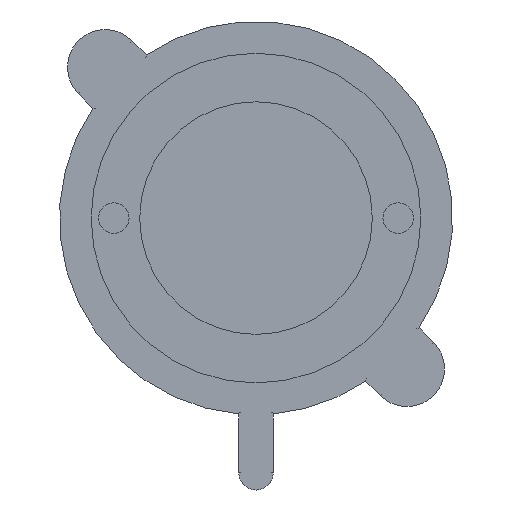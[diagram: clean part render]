
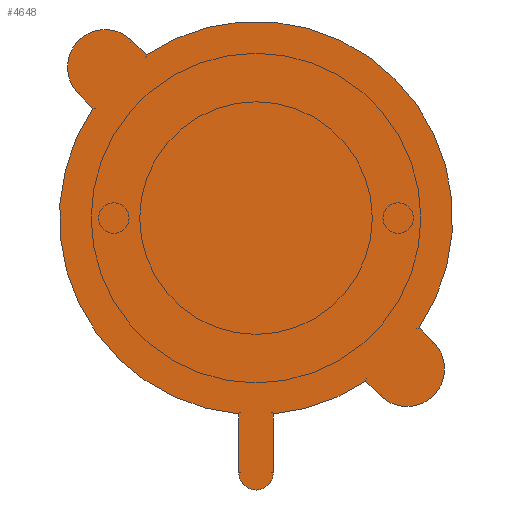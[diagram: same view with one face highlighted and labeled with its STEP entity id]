
A CAD part, top view. The second image highlights one B-rep face of the part: STEP entity #4648.
In plain terms, the highlighted planar face has unit normal (0, 0, 1).
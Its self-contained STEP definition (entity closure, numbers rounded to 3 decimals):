
#1009=LINE('',#20784,#1942);
#1011=LINE('',#20790,#1944);
#1024=LINE('',#20844,#1957);
#1027=LINE('',#20852,#1960);
#1029=LINE('',#20856,#1962);
#1031=LINE('',#20862,#1964);
#1942=VECTOR('',#17082,1.);
#1944=VECTOR('',#17090,1.);
#1957=VECTOR('',#17153,1.);
#1960=VECTOR('',#17162,1.);
#1962=VECTOR('',#17166,1.);
#1964=VECTOR('',#17174,1.);
#3009=FACE_OUTER_BOUND('',#6435,.T.);
#4648=ADVANCED_FACE('',(#3009),#5515,.T.);
#5515=PLANE('',#15697);
#6435=EDGE_LOOP('',(#7681,#7682,#7683,#7684,#7685,#7686,#7687,#7688,#7689,
#7690,#7691,#7692));
#7681=ORIENTED_EDGE('',*,*,#13075,.F.);
#7682=ORIENTED_EDGE('',*,*,#13077,.F.);
#7683=ORIENTED_EDGE('',*,*,#13078,.F.);
#7684=ORIENTED_EDGE('',*,*,#13050,.F.);
#7685=ORIENTED_EDGE('',*,*,#13105,.F.);
#7686=ORIENTED_EDGE('',*,*,#13103,.F.);
#7687=ORIENTED_EDGE('',*,*,#13101,.F.);
#7688=ORIENTED_EDGE('',*,*,#13048,.F.);
#7689=ORIENTED_EDGE('',*,*,#13107,.F.);
#7690=ORIENTED_EDGE('',*,*,#13109,.F.);
#7691=ORIENTED_EDGE('',*,*,#13110,.F.);
#7692=ORIENTED_EDGE('',*,*,#13054,.F.);
#11618=VERTEX_POINT('',#20705);
#11619=VERTEX_POINT('',#20707);
#11620=VERTEX_POINT('',#20714);
#11621=VERTEX_POINT('',#20715);
#11622=VERTEX_POINT('',#20729);
#11623=VERTEX_POINT('',#20731);
#11638=VERTEX_POINT('',#20783);
#11639=VERTEX_POINT('',#20787);
#11656=VERTEX_POINT('',#20845);
#11657=VERTEX_POINT('',#20849);
#11658=VERTEX_POINT('',#20855);
#11659=VERTEX_POINT('',#20859);
#13048=EDGE_CURVE('',#11618,#11619,#15209,.T.);
#13050=EDGE_CURVE('',#11620,#11621,#15210,.T.);
#13054=EDGE_CURVE('',#11622,#11623,#15211,.T.);
#13075=EDGE_CURVE('',#11638,#11622,#1009,.T.);
#13077=EDGE_CURVE('',#11639,#11638,#15224,.T.);
#13078=EDGE_CURVE('',#11621,#11639,#1011,.T.);
#13101=EDGE_CURVE('',#11619,#11656,#1024,.T.);
#13103=EDGE_CURVE('',#11656,#11657,#15235,.T.);
#13105=EDGE_CURVE('',#11657,#11620,#1027,.T.);
#13107=EDGE_CURVE('',#11658,#11618,#1029,.T.);
#13109=EDGE_CURVE('',#11659,#11658,#15236,.T.);
#13110=EDGE_CURVE('',#11623,#11659,#1031,.T.);
#15209=CIRCLE('',#15628,23.5);
#15210=CIRCLE('',#15630,23.5);
#15211=CIRCLE('',#15632,23.5);
#15224=CIRCLE('',#15660,2.05);
#15235=CIRCLE('',#15688,4.5);
#15236=CIRCLE('',#15692,4.5);
#15628=AXIS2_PLACEMENT_3D('',#20706,#17013,#17014);
#15630=AXIS2_PLACEMENT_3D('',#20713,#17017,#17018);
#15632=AXIS2_PLACEMENT_3D('',#20730,#17021,#17022);
#15660=AXIS2_PLACEMENT_3D('',#20788,#17086,#17087);
#15688=AXIS2_PLACEMENT_3D('',#20848,#17157,#17158);
#15692=AXIS2_PLACEMENT_3D('',#20860,#17170,#17171);
#15697=AXIS2_PLACEMENT_3D('',#20866,#17181,#17182);
#17013=DIRECTION('',(0.,0.,-1.));
#17014=DIRECTION('',(1.,0.,0.));
#17017=DIRECTION('',(0.,0.,-1.));
#17018=DIRECTION('',(1.,0.,0.));
#17021=DIRECTION('',(0.,0.,-1.));
#17022=DIRECTION('',(1.,0.,0.));
#17082=DIRECTION('',(0.,1.,0.));
#17086=DIRECTION('',(0.,0.,-1.));
#17087=DIRECTION('',(1.,0.,0.));
#17090=DIRECTION('',(0.,-1.,0.));
#17153=DIRECTION('',(0.707,-0.707,0.));
#17157=DIRECTION('',(0.,0.,-1.));
#17158=DIRECTION('',(1.,0.,0.));
#17162=DIRECTION('',(-0.707,0.707,0.));
#17166=DIRECTION('',(0.707,-0.707,0.));
#17170=DIRECTION('',(0.,0.,-1.));
#17171=DIRECTION('',(1.,0.,0.));
#17174=DIRECTION('',(-0.707,0.707,0.));
#17181=DIRECTION('',(0.,0.,1.));
#17182=DIRECTION('',(1.,0.,0.));
#20705=CARTESIAN_POINT('',(-13.128,18.741,66.));
#20706=CARTESIAN_POINT('',(0.,-0.75,66.));
#20707=CARTESIAN_POINT('',(19.491,-13.878,66.));
#20713=CARTESIAN_POINT('',(0.,-0.75,66.));
#20714=CARTESIAN_POINT('',(13.128,-20.241,66.));
#20715=CARTESIAN_POINT('',(2.05,-24.16,66.));
#20729=CARTESIAN_POINT('',(-2.05,-24.16,66.));
#20730=CARTESIAN_POINT('',(0.,-0.75,66.));
#20731=CARTESIAN_POINT('',(-19.491,12.378,66.));
#20783=CARTESIAN_POINT('',(-2.05,-31.2,66.));
#20784=CARTESIAN_POINT('',(-2.05,-24.199,66.));
#20787=CARTESIAN_POINT('',(2.05,-31.2,66.));
#20788=CARTESIAN_POINT('',(0.,-31.2,66.));
#20790=CARTESIAN_POINT('',(2.05,-31.2,66.));
#20844=CARTESIAN_POINT('',(3.182,2.432,66.));
#20845=CARTESIAN_POINT('',(21.213,-15.599,66.));
#20848=CARTESIAN_POINT('',(18.031,-18.781,66.));
#20849=CARTESIAN_POINT('',(14.849,-21.963,66.));
#20852=CARTESIAN_POINT('',(-3.182,-3.932,66.));
#20855=CARTESIAN_POINT('',(-14.849,20.463,66.));
#20856=CARTESIAN_POINT('',(3.182,2.432,66.));
#20859=CARTESIAN_POINT('',(-21.213,14.099,66.));
#20860=CARTESIAN_POINT('',(-18.031,17.281,66.));
#20862=CARTESIAN_POINT('',(-3.182,-3.932,66.));
#20866=CARTESIAN_POINT('',(0.,-0.75,66.));
